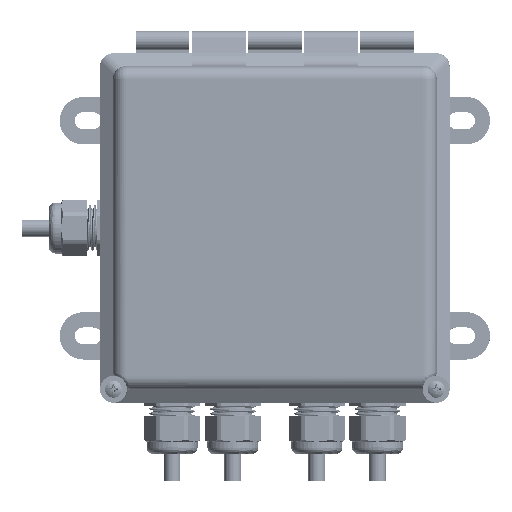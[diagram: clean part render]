
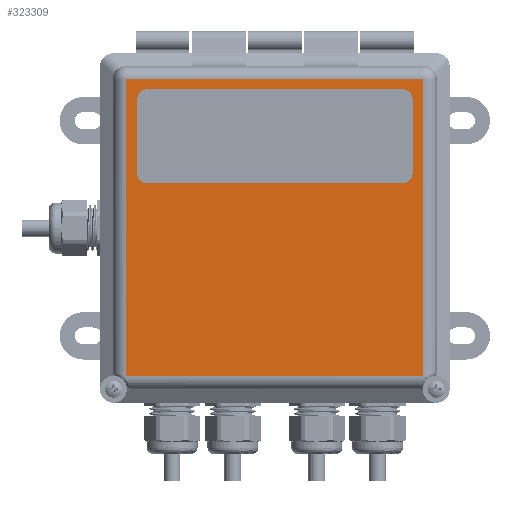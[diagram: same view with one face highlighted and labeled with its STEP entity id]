
A CAD part, top view. The second image highlights one B-rep face of the part: STEP entity #323309.
In plain terms, the highlighted planar face has unit normal (0, 0, 1) as drawn and (0, 1, 0) by its records, which use the part's own axes.
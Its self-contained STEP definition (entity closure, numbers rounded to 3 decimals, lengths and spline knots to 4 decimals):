
#11686 = CARTESIAN_POINT ( 'NONE',  ( 4.6082, 4.2779, -3.797 ) ) ;
#14925 = ORIENTED_EDGE ( 'NONE', *, *, #250384, .T. ) ;
#18028 = EDGE_LOOP ( 'NONE', ( #88499, #14925, #159861, #388511 ) ) ;
#42630 = DIRECTION ( 'NONE',  ( -1., 0., 0. ) ) ;
#45533 = VECTOR ( 'NONE', #367917, 39.3701 ) ;
#64951 = LINE ( 'NONE', #403131, #244604 ) ;
#75242 = CARTESIAN_POINT ( 'NONE',  ( -0.9132, 4.2779, -3.797 ) ) ;
#79480 = VERTEX_POINT ( 'NONE', #11686 ) ;
#84554 = CARTESIAN_POINT ( 'NONE',  ( -1.1632, 4.2779, 1.9744 ) ) ;
#88499 = ORIENTED_EDGE ( 'NONE', *, *, #243409, .T. ) ;
#98588 = DIRECTION ( 'NONE',  ( 0., 1., 0. ) ) ;
#115117 = PLANE ( 'NONE',  #170059 ) ;
#149269 = CARTESIAN_POINT ( 'NONE',  ( -0.9132, 4.2779, 1.7244 ) ) ;
#159861 = ORIENTED_EDGE ( 'NONE', *, *, #180121, .T. ) ;
#170059 = AXIS2_PLACEMENT_3D ( 'NONE', #84554, #98588, #249388 ) ;
#179032 = EDGE_CURVE ( 'NONE', #390249, #283883, #64951, .T. ) ;
#180121 = EDGE_CURVE ( 'NONE', #283920, #390249, #212431, .T. ) ;
#187860 = DIRECTION ( 'NONE',  ( 0., 0., 1. ) ) ;
#194400 = VECTOR ( 'NONE', #42630, 39.3701 ) ;
#212431 = LINE ( 'NONE', #336605, #348651 ) ;
#223806 = DIRECTION ( 'NONE',  ( 1., 0., 0. ) ) ;
#224112 = CARTESIAN_POINT ( 'NONE',  ( 4.6082, 4.2779, 1.7244 ) ) ;
#243409 = EDGE_CURVE ( 'NONE', #283883, #79480, #274255, .T. ) ;
#244604 = VECTOR ( 'NONE', #223806, 39.3701 ) ;
#249388 = DIRECTION ( 'NONE',  ( 0., 0., 1. ) ) ;
#250384 = EDGE_CURVE ( 'NONE', #79480, #283920, #321699, .T. ) ;
#274255 = LINE ( 'NONE', #302797, #45533 ) ;
#283883 = VERTEX_POINT ( 'NONE', #224112 ) ;
#283920 = VERTEX_POINT ( 'NONE', #309739 ) ;
#302797 = CARTESIAN_POINT ( 'NONE',  ( 4.6082, 4.2779, -3.797 ) ) ;
#309739 = CARTESIAN_POINT ( 'NONE',  ( -0.9132, 4.2779, -3.797 ) ) ;
#321699 = LINE ( 'NONE', #75242, #194400 ) ;
#323309 = ADVANCED_FACE ( 'NONE', ( #394167 ), #115117, .T. ) ;
#336605 = CARTESIAN_POINT ( 'NONE',  ( -0.9132, 4.2779, 1.7244 ) ) ;
#348651 = VECTOR ( 'NONE', #187860, 39.3701 ) ;
#367917 = DIRECTION ( 'NONE',  ( 0., 0., -1. ) ) ;
#388511 = ORIENTED_EDGE ( 'NONE', *, *, #179032, .T. ) ;
#390249 = VERTEX_POINT ( 'NONE', #149269 ) ;
#394167 = FACE_OUTER_BOUND ( 'NONE', #18028, .T. ) ;
#403131 = CARTESIAN_POINT ( 'NONE',  ( 4.6082, 4.2779, 1.7244 ) ) ;
